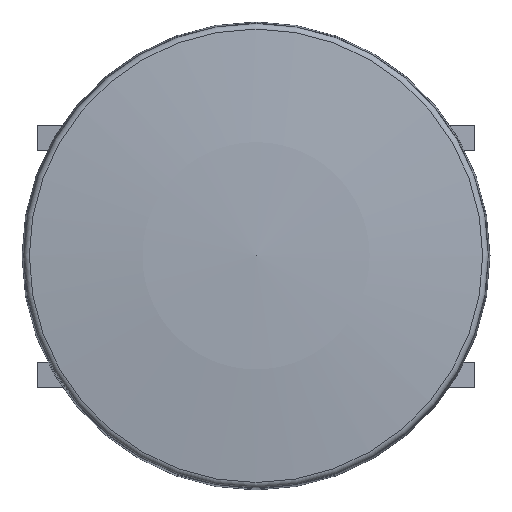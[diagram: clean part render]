
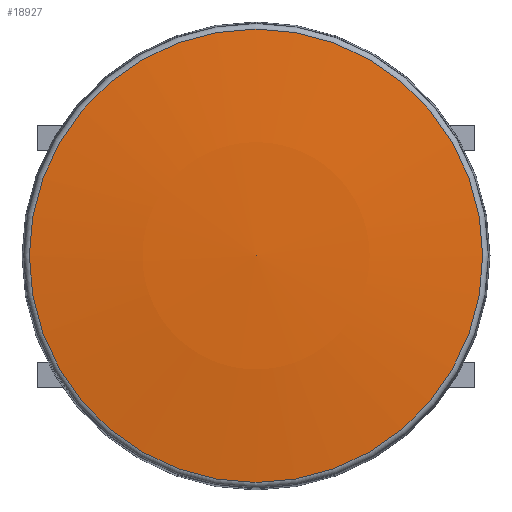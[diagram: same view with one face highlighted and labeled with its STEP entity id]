
A CAD part, top view. The second image highlights one B-rep face of the part: STEP entity #18927.
In plain terms, the highlighted spherical face has radius 60 mm.
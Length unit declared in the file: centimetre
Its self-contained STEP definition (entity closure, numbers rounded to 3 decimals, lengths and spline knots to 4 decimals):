
#12=SPHERICAL_SURFACE($,#19993,6.);
#1130=FACE_OUTER_BOUND($,#2114,.T.);
#2114=EDGE_LOOP($,(#12341));
#6618=CIRCLE($,#19994,0.7277);
#7257=VERTEX_POINT($,#28637);
#9221=EDGE_CURVE($,#7257,#7257,#6618,.T.);
#12341=ORIENTED_EDGE($,*,*,#9221,.T.);
#18927=ADVANCED_FACE($,(#1130),#12,.T.);
#19993=AXIS2_PLACEMENT_3D($,#28636,#21756,#21757);
#19994=AXIS2_PLACEMENT_3D($,#28638,#21758,#21759);
#21756=DIRECTION('center_axis',(0.,0.,
-1.));
#21757=DIRECTION('ref_axis',(1.,0.,0.));
#21758=DIRECTION('center_axis',(0.,0.,
1.));
#21759=DIRECTION('ref_axis',(0.,1.,0.));
#28636=CARTESIAN_POINT('Origin',(0.,0.,
-5.149));
#28637=CARTESIAN_POINT('',(0.,-0.7277,0.8067));
#28638=CARTESIAN_POINT('Origin',(0.,0.,
0.8067));
